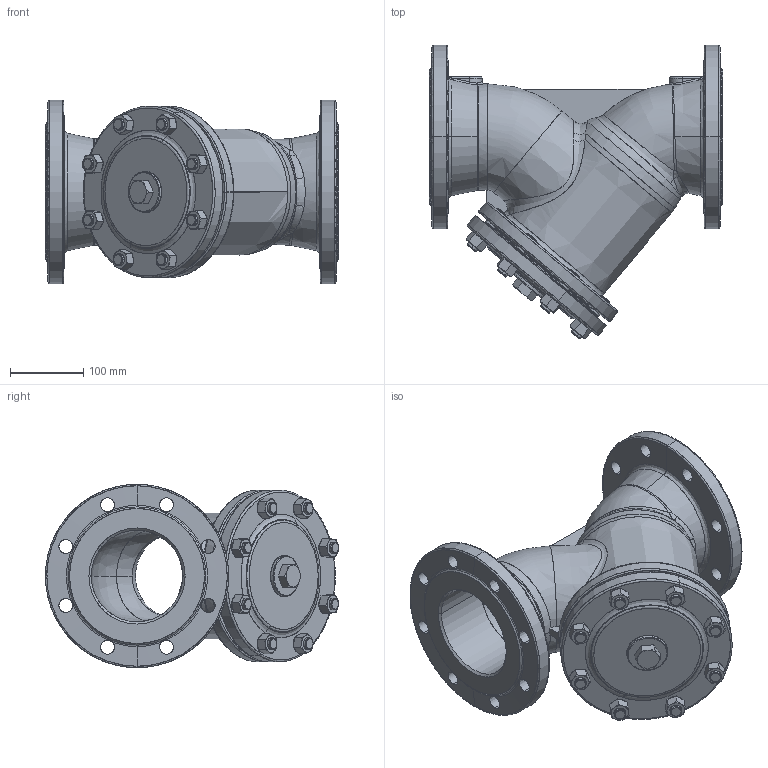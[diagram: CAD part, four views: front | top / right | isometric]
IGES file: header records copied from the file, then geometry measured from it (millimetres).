
Start section: SolidWorks IGES file using analytic representation for surfaces
Global section: file name: D:\katalog z³o¿eñ\00_Gotowe\821\RYSUNKI DXF\Z£O¯ENIA\Part\821_DN125_PN16.IGS; native system: SolidWorks 2010; preprocessor: SolidWorks 2010; author: alisowsk; date: 100108.130325; units: millimetre
Bounding box: 400 x 399.85 x 250 mm (x, y, z)
Surface area: 818530.8 mm2 (no closed solid volume)
Topology: 0 solids, 0 shells, 854 faces, 12853 edges, 12853 vertices
Faces by surface type: revolution 467, bspline 387
